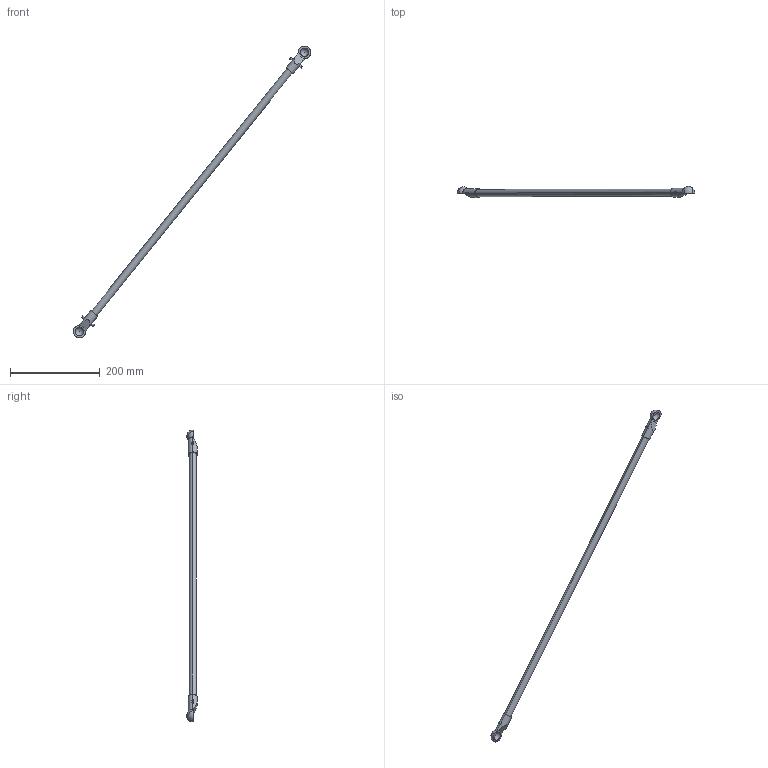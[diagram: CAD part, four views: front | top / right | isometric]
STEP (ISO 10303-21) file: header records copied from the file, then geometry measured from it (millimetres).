
FILE_DESCRIPTION (( 'STEP AP214' ), '1' );
FILE_NAME ('IRB360_8-1130-STD-4D_rev03_LA1_2_CAD.STEP', '2025-05-19T13:36:24', ( '' ), ( '' ), 'SwSTEP 2.0', 'SolidWorks 2022', '' );
FILE_SCHEMA (( 'AUTOMOTIVE_DESIGN' ));
Length unit declared in the file: millimetre
Products named in the file (1): IRB360_8-1130-STD-4D_rev03_LA1_2_CAD
Bounding box: 529.79 x 23.89 x 650.93 mm (x, y, z)
Volume: 172342 mm3; surface area: 44609 mm2
Topology: 1 solids, 1 shells, 38 faces, 103 edges, 63 vertices
Faces by surface type: cylinder 16, sphere 12, plane 10
Entity records: 1490 total; most frequent: CARTESIAN_POINT 417, DIRECTION 196, ORIENTED_EDGE 182, EDGE_CURVE 91, AXIS2_PLACEMENT_3D 86, VERTEX_POINT 57, CIRCLE 47, EDGE_LOOP 40
